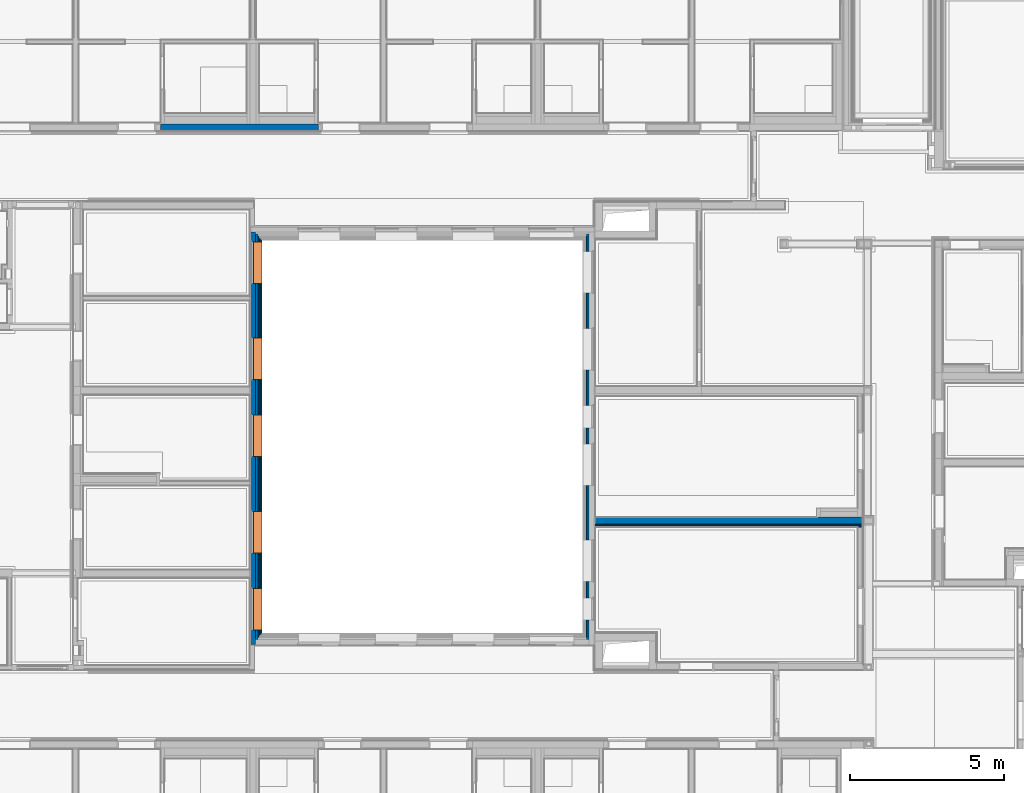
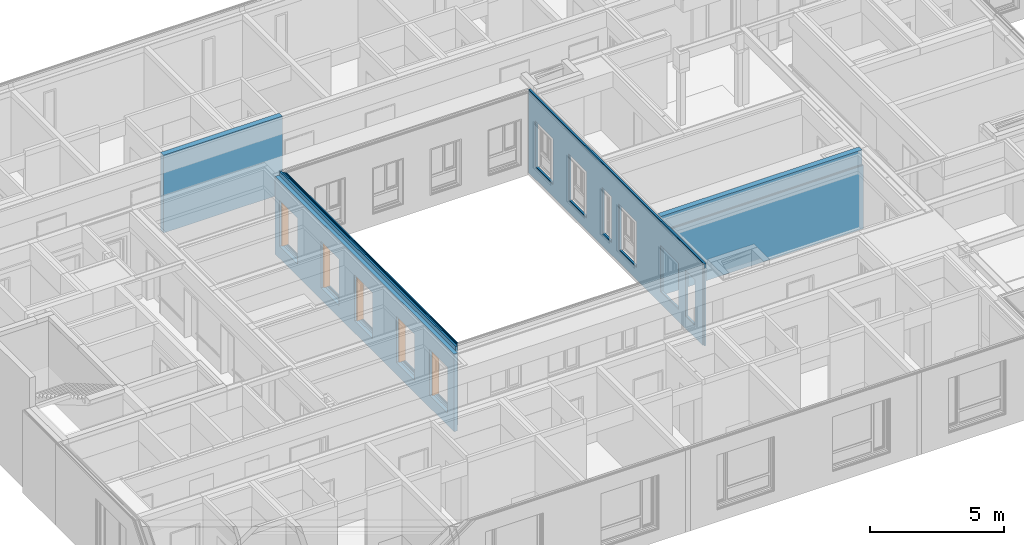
# One storey, part 16 of 222: 12 walls, 5 proxies, 42 openings.
"""IFC4 building model written with IfcOpenShell, lengths in metres."""

from ifc_helpers import new_model, entity, si_unit, converted_unit, derived_unit, frame, frame_2d, origin, origin_with_axes, place, context, subcontext, project, spatial, polyline, rectangle, outline, extrude, faceted_brep, material, element, fill, save


model = new_model("IFC4")

# Units and contexts
model_context = context("Model", 3, precision=1e-05, world=origin())
body_context = subcontext(model_context, "Body", "Model", "MODEL_VIEW")
ifc_project = project(units=[si_unit("LENGTHUNIT", "METRE"), si_unit("AREAUNIT", "SQUARE_METRE"), si_unit("VOLUMEUNIT", "CUBIC_METRE"), si_unit("MASSUNIT", "GRAM", prefix="KILO"), converted_unit("PLANEANGLEUNIT", "DEGREE", entity("IfcPlaneAngleMeasure", 0.0174532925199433), si_unit("PLANEANGLEUNIT", "RADIAN"), dimensions=[0, 0, 0, 0, 0, 0, 0]), derived_unit("THERMALTRANSMITTANCEUNIT", [(si_unit("POWERUNIT", "WATT"), 1), (si_unit("THERMODYNAMICTEMPERATUREUNIT", "KELVIN"), -1), (si_unit("LENGTHUNIT", "METRE"), -2)]), derived_unit("VOLUMETRICFLOWRATEUNIT", [(si_unit("LENGTHUNIT", "METRE"), 3), (converted_unit("TIMEUNIT", "hour", entity("IfcTimeMeasure", 3600.0), si_unit("TIMEUNIT", "SECOND"), dimensions=[0, 0, 1, 0, 0, 0, 0]), -1), (si_unit("LENGTHUNIT", "METRE"), -1)])], contexts=[model_context])

# Site, building, storey
site_placement = place(None, origin())
site = spatial("IfcSite", under=ifc_project, at=site_placement, Name="Psychiatrie Neubau Wunstorf", CompositionType="ELEMENT")
building_placement = place(site_placement, origin())
building = spatial("IfcBuilding", under=site, at=building_placement, Name="Neubau H2 Stationsgebäude", CompositionType="ELEMENT")
storey_placement = place(building_placement, frame((0.0, 0.0, 3.6)))
storey = spatial("IfcBuildingStorey", under=building, at=storey_placement, Name="H2 Ebene +1", CompositionType="ELEMENT", Elevation=3.6)

# Wall, openings
ifc_material_1 = material(Name="WA-DL")
wall_1_placement = place(storey_placement, frame((26.665, 7.61, 0.0), z_axis=(0.0, 0.0, 1.0), x_axis=(5.52395186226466e-16, 1.0, 0.0)))
wall_1 = element("IfcWall", 1, at=wall_1_placement, inside=storey, material=ifc_material_1, context=body_context, shape_type="SweptSolid", body=[
    extrude(rectangle(XDim=13.1716528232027, YDim=0.08, at=frame_2d((6.58582641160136, 0.04), x_axis=(1.0, 0.0))), origin_with_axes(), (0.0, 0.0, 1.0), 3.75),
])
opening_1_placement = place(wall_1_placement, frame((12.605, 0.0799999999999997, 0.55), z_axis=(0.0, -1.0, 0.0), x_axis=(0.0, 0.0, 1.0)))
element("IfcOpeningElement", 2, at=opening_1_placement, cuts=wall_1, Name="Fensteröffnung", ObjectType="Opening", context=body_context, shape_type="SweptSolid", body=[
    extrude(outline(polyline([(2.115, 1.35), (2.115, 0.0), (0.0, 0.0), (0.0, 1.35), (2.115, 1.35)])), origin_with_axes(), (0.0, 0.0, 1.0), 0.08),
])
opening_2_placement = place(wall_1_placement, frame((10.1054401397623, 0.0799999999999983, 0.55), z_axis=(0.0, -1.0, 0.0), x_axis=(0.0, 0.0, 1.0)))
element("IfcOpeningElement", 3, at=opening_2_placement, cuts=wall_1, Name="Fensteröffnung", ObjectType="Opening", context=body_context, shape_type="SweptSolid", body=[
    extrude(outline(polyline([(2.115, 1.35), (2.115, 0.0), (0.0, 0.0), (0.0, 1.35), (2.115, 1.35)])), origin_with_axes(), (0.0, 0.0, 1.0), 0.08),
])
opening_3_placement = place(wall_1_placement, frame((7.60505754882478, 0.0800000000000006, 0.55), z_axis=(0.0, -1.0, 0.0), x_axis=(0.0, 0.0, 1.0)))
element("IfcOpeningElement", 4, at=opening_3_placement, cuts=wall_1, Name="Fensteröffnung", ObjectType="Opening", context=body_context, shape_type="SweptSolid", body=[
    extrude(outline(polyline([(2.115, 0.725), (2.115, 0.0), (0.0, 0.0), (0.0, 0.725), (2.115, 0.725)])), origin_with_axes(), (0.0, 0.0, 1.0), 0.08),
])
opening_4_placement = place(wall_1_placement, frame((3.23244477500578, 0.0800000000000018, 0.55), z_axis=(0.0, -1.0, 0.0), x_axis=(0.0, 0.0, 1.0)))
element("IfcOpeningElement", 5, at=opening_4_placement, cuts=wall_1, Name="Fensteröffnung", ObjectType="Opening", context=body_context, shape_type="SweptSolid", body=[
    extrude(outline(polyline([(2.115, 1.35), (2.115, 0.0), (0.0, 0.0), (0.0, 1.35), (2.115, 1.35)])), origin_with_axes(), (0.0, 0.0, 1.0), 0.08),
])
opening_5_placement = place(wall_1_placement, frame((1.35744478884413, 0.0799999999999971, 0.55), z_axis=(0.0, -1.0, 0.0), x_axis=(0.0, 0.0, 1.0)))
element("IfcOpeningElement", 6, at=opening_5_placement, cuts=wall_1, Name="Fensteröffnung", ObjectType="Opening", context=body_context, shape_type="SweptSolid", body=[
    extrude(outline(polyline([(2.115, 0.725), (2.115, 0.0), (0.0, 0.0), (0.0, 0.725), (2.115, 0.725)])), origin_with_axes(), (0.0, 0.0, 1.0), 0.08),
])
opening_6_placement = place(wall_1_placement, frame((6.35580066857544, 0.0800000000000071, 0.55), z_axis=(0.0, -1.0, 0.0), x_axis=(0.0, 0.0, 1.0)))
element("IfcOpeningElement", 7, at=opening_6_placement, cuts=wall_1, Name="Fensteröffnung", ObjectType="Opening", context=body_context, shape_type="SweptSolid", body=[
    extrude(outline(polyline([(2.115, 1.35), (2.115, 0.0), (0.0, 0.0), (0.0, 1.35), (2.115, 1.35)])), origin_with_axes(), (0.0, 0.0, 1.0), 0.08),
])

ifc_material_2 = material(Name="WA-LB")
wall_2_placement = place(storey_placement, frame((26.585, 7.69, 0.0), z_axis=(0.0, 0.0, 1.0), x_axis=(5.59187807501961e-16, 1.0, 0.0)))
wall_2 = element("IfcWall", 8, at=wall_2_placement, inside=storey, material=ifc_material_2, context=body_context, shape_type="SweptSolid", body=[
    extrude(rectangle(XDim=13.0116528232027, YDim=0.036, at=frame_2d((6.50582641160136, 0.018), x_axis=(1.0, 0.0))), origin_with_axes(), (0.0, 0.0, 1.0), 3.75),
])
opening_7_placement = place(wall_2_placement, frame((12.525, 0.0359999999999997, 0.55), z_axis=(0.0, -1.0, 0.0), x_axis=(0.0, 0.0, 1.0)))
element("IfcOpeningElement", 9, at=opening_7_placement, cuts=wall_2, Name="Fensteröffnung", ObjectType="Opening", context=body_context, shape_type="SweptSolid", body=[
    extrude(outline(polyline([(2.115, 1.35), (2.115, 0.0), (0.0, 0.0), (0.0, 1.35), (2.115, 1.35)])), origin_with_axes(), (0.0, 0.0, 1.0), 0.036),
])
opening_8_placement = place(wall_2_placement, frame((10.0254401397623, 0.0359999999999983, 0.55), z_axis=(0.0, -1.0, 0.0), x_axis=(0.0, 0.0, 1.0)))
element("IfcOpeningElement", 10, at=opening_8_placement, cuts=wall_2, Name="Fensteröffnung", ObjectType="Opening", context=body_context, shape_type="SweptSolid", body=[
    extrude(outline(polyline([(2.115, 1.35), (2.115, 0.0), (0.0, 0.0), (0.0, 1.35), (2.115, 1.35)])), origin_with_axes(), (0.0, 0.0, 1.0), 0.036),
])
opening_9_placement = place(wall_2_placement, frame((7.52505754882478, 0.0360000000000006, 0.55), z_axis=(0.0, -1.0, 0.0), x_axis=(0.0, 0.0, 1.0)))
element("IfcOpeningElement", 11, at=opening_9_placement, cuts=wall_2, Name="Fensteröffnung", ObjectType="Opening", context=body_context, shape_type="SweptSolid", body=[
    extrude(outline(polyline([(2.115, 0.725), (2.115, 0.0), (0.0, 0.0), (0.0, 0.725), (2.115, 0.725)])), origin_with_axes(), (0.0, 0.0, 1.0), 0.036),
])
opening_10_placement = place(wall_2_placement, frame((3.15244477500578, 0.0360000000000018, 0.55), z_axis=(0.0, -1.0, 0.0), x_axis=(0.0, 0.0, 1.0)))
element("IfcOpeningElement", 12, at=opening_10_placement, cuts=wall_2, Name="Fensteröffnung", ObjectType="Opening", context=body_context, shape_type="SweptSolid", body=[
    extrude(outline(polyline([(2.115, 1.35), (2.115, 0.0), (0.0, 0.0), (0.0, 1.35), (2.115, 1.35)])), origin_with_axes(), (0.0, 0.0, 1.0), 0.036),
])
opening_11_placement = place(wall_2_placement, frame((1.27744478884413, 0.0359999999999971, 0.55), z_axis=(0.0, -1.0, 0.0), x_axis=(0.0, 0.0, 1.0)))
element("IfcOpeningElement", 13, at=opening_11_placement, cuts=wall_2, Name="Fensteröffnung", ObjectType="Opening", context=body_context, shape_type="SweptSolid", body=[
    extrude(outline(polyline([(2.115, 0.725), (2.115, 0.0), (0.0, 0.0), (0.0, 0.725), (2.115, 0.725)])), origin_with_axes(), (0.0, 0.0, 1.0), 0.036),
])
opening_12_placement = place(wall_2_placement, frame((6.27580066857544, 0.0360000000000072, 0.55), z_axis=(0.0, -1.0, 0.0), x_axis=(0.0, 0.0, 1.0)))
element("IfcOpeningElement", 14, at=opening_12_placement, cuts=wall_2, Name="Fensteröffnung", ObjectType="Opening", context=body_context, shape_type="SweptSolid", body=[
    extrude(outline(polyline([(2.115, 1.35), (2.115, 0.0), (0.0, 0.0), (0.0, 1.35), (2.115, 1.35)])), origin_with_axes(), (0.0, 0.0, 1.0), 0.036),
])

ifc_material_3 = material(Name="WA-DL")
wall_3_placement = place(storey_placement, frame((15.675, 20.8416528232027, 0.0), z_axis=(0.0, 0.0, 1.0), x_axis=(-2.71660179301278e-16, -1.0, 0.0)))
wall_3 = element("IfcWall", 15, at=wall_3_placement, inside=storey, material=ifc_material_3, context=body_context, shape_type="SweptSolid", body=[
    extrude(rectangle(XDim=13.3916528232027, YDim=0.16, at=frame_2d((6.69582641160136, 0.08), x_axis=(1.0, 0.0))), origin_with_axes(), (0.0, 0.0, 1.0), 3.55),
])
opening_13_placement = place(wall_3_placement, frame((4.79165282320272, 0.159999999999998, 0.55), z_axis=(0.0, -1.0, 0.0), x_axis=(0.0, 0.0, 1.0)))
element("IfcOpeningElement", 16, at=opening_13_placement, cuts=wall_3, Name="Fensteröffnung", ObjectType="Opening", context=body_context, shape_type="SweptSolid", body=[
    extrude(outline(polyline([(2.115, 1.35), (2.115, 0.0), (0.0, 0.0), (0.0, 1.35), (2.115, 1.35)])), origin_with_axes(), (0.0, 0.0, 1.0), 0.16),
])
opening_14_placement = place(wall_3_placement, frame((7.29165282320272, 0.16, 0.55), z_axis=(0.0, -1.0, 0.0), x_axis=(0.0, 0.0, 1.0)))
element("IfcOpeningElement", 17, at=opening_14_placement, cuts=wall_3, Name="Fensteröffnung", ObjectType="Opening", context=body_context, shape_type="SweptSolid", body=[
    extrude(outline(polyline([(2.115, 1.35), (2.115, 0.0), (0.0, 0.0), (0.0, 1.35), (2.115, 1.35)])), origin_with_axes(), (0.0, 0.0, 1.0), 0.16),
])
opening_15_placement = place(wall_3_placement, frame((1.66665282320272, 0.159999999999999, 0.55), z_axis=(0.0, -1.0, 0.0), x_axis=(0.0, 0.0, 1.0)))
element("IfcOpeningElement", 18, at=opening_15_placement, cuts=wall_3, Name="Fensteröffnung", ObjectType="Opening", context=body_context, shape_type="SweptSolid", body=[
    extrude(outline(polyline([(2.115, 1.35), (2.115, 0.0), (0.0, 0.0), (0.0, 1.35), (2.115, 1.35)])), origin_with_axes(), (0.0, 0.0, 1.0), 0.16),
])
opening_16_placement = place(wall_3_placement, frame((12.9166528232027, 0.16, 0.55), z_axis=(0.0, -1.0, 0.0), x_axis=(0.0, 0.0, 1.0)))
element("IfcOpeningElement", 19, at=opening_16_placement, cuts=wall_3, Name="Fensteröffnung", ObjectType="Opening", context=body_context, shape_type="SweptSolid", body=[
    extrude(outline(polyline([(2.115, 1.35), (2.115, 0.0), (0.0, 0.0), (0.0, 1.35), (2.115, 1.35)])), origin_with_axes(), (0.0, 0.0, 1.0), 0.16),
])
opening_17_placement = place(wall_3_placement, frame((10.4166528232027, 0.160000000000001, 0.55), z_axis=(0.0, -1.0, 0.0), x_axis=(0.0, 0.0, 1.0)))
element("IfcOpeningElement", 20, at=opening_17_placement, cuts=wall_3, Name="Fensteröffnung", ObjectType="Opening", context=body_context, shape_type="SweptSolid", body=[
    extrude(outline(polyline([(2.115, 1.35), (2.115, 0.0), (0.0, 0.0), (0.0, 1.35), (2.115, 1.35)])), origin_with_axes(), (0.0, 0.0, 1.0), 0.16),
])

ifc_material_4 = material(Name="WA-DL")
wall_4_placement = place(storey_placement, frame((15.835, 20.7816528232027, 0.0), z_axis=(0.0, 0.0, 1.0), x_axis=(-2.76197593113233e-16, -1.0, 0.0)))
wall_4 = element("IfcWall", 21, at=wall_4_placement, inside=storey, material=ifc_material_4, context=body_context, shape_type="SweptSolid", body=[
    extrude(rectangle(XDim=13.1716528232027, YDim=0.08, at=frame_2d((6.58582641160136, 0.04), x_axis=(1.0, 0.0))), origin_with_axes(), (0.0, 0.0, 1.0), 3.75),
])
opening_18_placement = place(wall_4_placement, frame((4.73165282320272, 0.0799999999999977, 0.55), z_axis=(0.0, -1.0, 0.0), x_axis=(0.0, 0.0, 1.0)))
element("IfcOpeningElement", 22, at=opening_18_placement, cuts=wall_4, Name="Fensteröffnung", ObjectType="Opening", context=body_context, shape_type="SweptSolid", body=[
    extrude(outline(polyline([(2.115, 1.35), (2.115, 0.0), (0.0, 0.0), (0.0, 1.35), (2.115, 1.35)])), origin_with_axes(), (0.0, 0.0, 1.0), 0.08),
])
opening_19_placement = place(wall_4_placement, frame((7.23165282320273, 0.0800000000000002, 0.55), z_axis=(0.0, -1.0, 0.0), x_axis=(0.0, 0.0, 1.0)))
element("IfcOpeningElement", 23, at=opening_19_placement, cuts=wall_4, Name="Fensteröffnung", ObjectType="Opening", context=body_context, shape_type="SweptSolid", body=[
    extrude(outline(polyline([(2.115, 1.35), (2.115, 0.0), (0.0, 0.0), (0.0, 1.35), (2.115, 1.35)])), origin_with_axes(), (0.0, 0.0, 1.0), 0.08),
])
opening_20_placement = place(wall_4_placement, frame((1.60665282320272, 0.0799999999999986, 0.55), z_axis=(0.0, -1.0, 0.0), x_axis=(0.0, 0.0, 1.0)))
element("IfcOpeningElement", 24, at=opening_20_placement, cuts=wall_4, Name="Fensteröffnung", ObjectType="Opening", context=body_context, shape_type="SweptSolid", body=[
    extrude(outline(polyline([(2.115, 1.35), (2.115, 0.0), (0.0, 0.0), (0.0, 1.35), (2.115, 1.35)])), origin_with_axes(), (0.0, 0.0, 1.0), 0.08),
])
opening_21_placement = place(wall_4_placement, frame((12.8566528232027, 0.0799999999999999, 0.55), z_axis=(0.0, -1.0, 0.0), x_axis=(0.0, 0.0, 1.0)))
element("IfcOpeningElement", 25, at=opening_21_placement, cuts=wall_4, Name="Fensteröffnung", ObjectType="Opening", context=body_context, shape_type="SweptSolid", body=[
    extrude(outline(polyline([(2.115, 1.35), (2.115, 0.0), (0.0, 0.0), (0.0, 1.35), (2.115, 1.35)])), origin_with_axes(), (0.0, 0.0, 1.0), 0.08),
])
opening_22_placement = place(wall_4_placement, frame((10.3566528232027, 0.080000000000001, 0.55), z_axis=(0.0, -1.0, 0.0), x_axis=(0.0, 0.0, 1.0)))
element("IfcOpeningElement", 26, at=opening_22_placement, cuts=wall_4, Name="Fensteröffnung", ObjectType="Opening", context=body_context, shape_type="SweptSolid", body=[
    extrude(outline(polyline([(2.115, 1.35), (2.115, 0.0), (0.0, 0.0), (0.0, 1.35), (2.115, 1.35)])), origin_with_axes(), (0.0, 0.0, 1.0), 0.08),
])

ifc_material_5 = material(Name="WA-LB")
wall_5_placement = place(storey_placement, frame((15.915, 20.7016528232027, 0.0), z_axis=(0.0, 0.0, 1.0), x_axis=(-2.7959390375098e-16, -1.0, 0.0)))
wall_5 = element("IfcWall", 27, at=wall_5_placement, inside=storey, material=ifc_material_5, context=body_context, shape_type="SweptSolid", body=[
    extrude(rectangle(XDim=13.0116528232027, YDim=0.036, at=frame_2d((6.50582641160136, 0.018), x_axis=(1.0, 0.0))), origin_with_axes(), (0.0, 0.0, 1.0), 3.75),
])
opening_23_placement = place(wall_5_placement, frame((4.65165282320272, 0.0359999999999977, 0.55), z_axis=(0.0, -1.0, 0.0), x_axis=(0.0, 0.0, 1.0)))
element("IfcOpeningElement", 28, at=opening_23_placement, cuts=wall_5, Name="Fensteröffnung", ObjectType="Opening", context=body_context, shape_type="SweptSolid", body=[
    extrude(outline(polyline([(2.115, 1.35), (2.115, 0.0), (0.0, 0.0), (0.0, 1.35), (2.115, 1.35)])), origin_with_axes(), (0.0, 0.0, 1.0), 0.036),
])
opening_24_placement = place(wall_5_placement, frame((7.15165282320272, 0.0360000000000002, 0.55), z_axis=(0.0, -1.0, 0.0), x_axis=(0.0, 0.0, 1.0)))
element("IfcOpeningElement", 29, at=opening_24_placement, cuts=wall_5, Name="Fensteröffnung", ObjectType="Opening", context=body_context, shape_type="SweptSolid", body=[
    extrude(outline(polyline([(2.115, 1.35), (2.115, 0.0), (0.0, 0.0), (0.0, 1.35), (2.115, 1.35)])), origin_with_axes(), (0.0, 0.0, 1.0), 0.036),
])
opening_25_placement = place(wall_5_placement, frame((1.52665282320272, 0.0359999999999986, 0.55), z_axis=(0.0, -1.0, 0.0), x_axis=(0.0, 0.0, 1.0)))
element("IfcOpeningElement", 30, at=opening_25_placement, cuts=wall_5, Name="Fensteröffnung", ObjectType="Opening", context=body_context, shape_type="SweptSolid", body=[
    extrude(outline(polyline([(2.115, 1.35), (2.115, 0.0), (0.0, 0.0), (0.0, 1.35), (2.115, 1.35)])), origin_with_axes(), (0.0, 0.0, 1.0), 0.036),
])
opening_26_placement = place(wall_5_placement, frame((12.7766528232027, 0.0359999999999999, 0.55), z_axis=(0.0, -1.0, 0.0), x_axis=(0.0, 0.0, 1.0)))
element("IfcOpeningElement", 31, at=opening_26_placement, cuts=wall_5, Name="Fensteröffnung", ObjectType="Opening", context=body_context, shape_type="SweptSolid", body=[
    extrude(outline(polyline([(2.115, 1.35), (2.115, 0.0), (0.0, 0.0), (0.0, 1.35), (2.115, 1.35)])), origin_with_axes(), (0.0, 0.0, 1.0), 0.036),
])
opening_27_placement = place(wall_5_placement, frame((10.2766528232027, 0.0360000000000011, 0.55), z_axis=(0.0, -1.0, 0.0), x_axis=(0.0, 0.0, 1.0)))
element("IfcOpeningElement", 32, at=opening_27_placement, cuts=wall_5, Name="Fensteröffnung", ObjectType="Opening", context=body_context, shape_type="SweptSolid", body=[
    extrude(outline(polyline([(2.115, 1.35), (2.115, 0.0), (0.0, 0.0), (0.0, 1.35), (2.115, 1.35)])), origin_with_axes(), (0.0, 0.0, 1.0), 0.036),
])

ifc_material_6 = material(Name="WA-KL")
wall_6_placement = place(storey_placement, frame((15.951, 20.6656528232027, 0.0), z_axis=(0.0, 0.0, 1.0), x_axis=(-2.81149645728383e-16, -1.0, 0.0)))
wall_6 = element("IfcWall", 33, at=wall_6_placement, inside=storey, material=ifc_material_6, context=body_context, shape_type="SweptSolid", body=[
    extrude(rectangle(XDim=12.9396528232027, YDim=0.024, at=frame_2d((6.46982641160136, 0.012), x_axis=(1.0, 0.0))), origin_with_axes(), (0.0, 0.0, 1.0), 3.75),
])
opening_28_placement = place(wall_6_placement, frame((4.61565282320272, 0.0239999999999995, 0.55), z_axis=(0.0, -1.0, 0.0), x_axis=(0.0, 0.0, 1.0)))
element("IfcOpeningElement", 34, at=opening_28_placement, cuts=wall_6, Name="Fensteröffnung", ObjectType="Opening", context=body_context, shape_type="SweptSolid", body=[
    extrude(outline(polyline([(2.115, 1.35), (2.115, 0.0), (0.0, 0.0), (0.0, 1.35), (2.115, 1.35)])), origin_with_axes(), (0.0, 0.0, 1.0), 0.024),
])
opening_29_placement = place(wall_6_placement, frame((7.11565282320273, 0.0240000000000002, 0.55), z_axis=(0.0, -1.0, 0.0), x_axis=(0.0, 0.0, 1.0)))
element("IfcOpeningElement", 35, at=opening_29_placement, cuts=wall_6, Name="Fensteröffnung", ObjectType="Opening", context=body_context, shape_type="SweptSolid", body=[
    extrude(outline(polyline([(2.115, 1.35), (2.115, 0.0), (0.0, 0.0), (0.0, 1.35), (2.115, 1.35)])), origin_with_axes(), (0.0, 0.0, 1.0), 0.024),
])
opening_30_placement = place(wall_6_placement, frame((1.49065282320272, 0.0240000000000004, 0.55), z_axis=(0.0, -1.0, 0.0), x_axis=(0.0, 0.0, 1.0)))
element("IfcOpeningElement", 36, at=opening_30_placement, cuts=wall_6, Name="Fensteröffnung", ObjectType="Opening", context=body_context, shape_type="SweptSolid", body=[
    extrude(outline(polyline([(2.115, 1.35), (2.115, 0.0), (0.0, 0.0), (0.0, 1.35), (2.115, 1.35)])), origin_with_axes(), (0.0, 0.0, 1.0), 0.024),
])
opening_31_placement = place(wall_6_placement, frame((12.7406528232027, 0.0239999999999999, 0.55), z_axis=(0.0, -1.0, 0.0), x_axis=(0.0, 0.0, 1.0)))
element("IfcOpeningElement", 37, at=opening_31_placement, cuts=wall_6, Name="Fensteröffnung", ObjectType="Opening", context=body_context, shape_type="SweptSolid", body=[
    extrude(outline(polyline([(2.115, 1.35), (2.115, 0.0), (0.0, 0.0), (0.0, 1.35), (2.115, 1.35)])), origin_with_axes(), (0.0, 0.0, 1.0), 0.024),
])
opening_32_placement = place(wall_6_placement, frame((10.2406528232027, 0.0240000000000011, 0.55), z_axis=(0.0, -1.0, 0.0), x_axis=(0.0, 0.0, 1.0)))
element("IfcOpeningElement", 38, at=opening_32_placement, cuts=wall_6, Name="Fensteröffnung", ObjectType="Opening", context=body_context, shape_type="SweptSolid", body=[
    extrude(outline(polyline([(2.115, 1.35), (2.115, 0.0), (0.0, 0.0), (0.0, 1.35), (2.115, 1.35)])), origin_with_axes(), (0.0, 0.0, 1.0), 0.024),
])

ifc_material_7 = material(Name="WA-TL")
wall_7_placement = place(storey_placement, frame((15.975, 20.6416528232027, 0.0), z_axis=(0.0, 0.0, 1.0), x_axis=(-2.82196461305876e-16, -1.0, 0.0)))
wall_7 = element("IfcWall", 39, at=wall_7_placement, inside=storey, material=ifc_material_7, context=body_context, shape_type="SweptSolid", body=[
    extrude(rectangle(XDim=12.8916528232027, YDim=0.024, at=frame_2d((6.44582641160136, 0.012), x_axis=(1.0, 0.0))), origin_with_axes(), (0.0, 0.0, 1.0), 3.75),
])
opening_33_placement = place(wall_7_placement, frame((4.59165282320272, 0.0239999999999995, 0.55), z_axis=(0.0, -1.0, 0.0), x_axis=(0.0, 0.0, 1.0)))
element("IfcOpeningElement", 40, at=opening_33_placement, cuts=wall_7, Name="Fensteröffnung", ObjectType="Opening", context=body_context, shape_type="SweptSolid", body=[
    extrude(outline(polyline([(2.115, 1.35), (2.115, 0.0), (0.0, 0.0), (0.0, 1.35), (2.115, 1.35)])), origin_with_axes(), (0.0, 0.0, 1.0), 0.024),
])
opening_34_placement = place(wall_7_placement, frame((7.09165282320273, 0.0240000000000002, 0.55), z_axis=(0.0, -1.0, 0.0), x_axis=(0.0, 0.0, 1.0)))
element("IfcOpeningElement", 41, at=opening_34_placement, cuts=wall_7, Name="Fensteröffnung", ObjectType="Opening", context=body_context, shape_type="SweptSolid", body=[
    extrude(outline(polyline([(2.115, 1.35), (2.115, 0.0), (0.0, 0.0), (0.0, 1.35), (2.115, 1.35)])), origin_with_axes(), (0.0, 0.0, 1.0), 0.024),
])
opening_35_placement = place(wall_7_placement, frame((1.46665282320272, 0.0240000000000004, 0.55), z_axis=(0.0, -1.0, 0.0), x_axis=(0.0, 0.0, 1.0)))
element("IfcOpeningElement", 42, at=opening_35_placement, cuts=wall_7, Name="Fensteröffnung", ObjectType="Opening", context=body_context, shape_type="SweptSolid", body=[
    extrude(outline(polyline([(2.115, 1.35), (2.115, 0.0), (0.0, 0.0), (0.0, 1.35), (2.115, 1.35)])), origin_with_axes(), (0.0, 0.0, 1.0), 0.024),
])
opening_36_placement = place(wall_7_placement, frame((12.7166528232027, 0.024, 0.55), z_axis=(0.0, -1.0, 0.0), x_axis=(0.0, 0.0, 1.0)))
element("IfcOpeningElement", 43, at=opening_36_placement, cuts=wall_7, Name="Fensteröffnung", ObjectType="Opening", context=body_context, shape_type="SweptSolid", body=[
    extrude(outline(polyline([(2.115, 1.35), (2.115, 0.0), (0.0, 0.0), (0.0, 1.35), (2.115, 1.35)])), origin_with_axes(), (0.0, 0.0, 1.0), 0.024),
])
opening_37_placement = place(wall_7_placement, frame((10.2166528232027, 0.0240000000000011, 0.55), z_axis=(0.0, -1.0, 0.0), x_axis=(0.0, 0.0, 1.0)))
element("IfcOpeningElement", 44, at=opening_37_placement, cuts=wall_7, Name="Fensteröffnung", ObjectType="Opening", context=body_context, shape_type="SweptSolid", body=[
    extrude(outline(polyline([(2.115, 1.35), (2.115, 0.0), (0.0, 0.0), (0.0, 1.35), (2.115, 1.35)])), origin_with_axes(), (0.0, 0.0, 1.0), 0.024),
])

# Wall, openings, proxies
ifc_material_8 = material(Name="WA-HS")
wall_8_placement = place(storey_placement, frame((15.999, 20.6176528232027, 0.0), z_axis=(0.0, 0.0, 1.0), x_axis=(-2.83251101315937e-16, -1.0, 0.0)))
wall_8 = element("IfcWall", 45, at=wall_8_placement, inside=storey, material=ifc_material_8, context=body_context, shape_type="SweptSolid", body=[
    extrude(rectangle(XDim=12.8436528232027, YDim=0.042, at=frame_2d((6.42182641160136, 0.021), x_axis=(1.0, 0.0))), origin_with_axes(), (0.0, 0.0, 1.0), 3.75),
])
opening_38_placement = place(wall_8_placement, frame((4.56765282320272, 0.0419999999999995, 0.55), z_axis=(0.0, -1.0, 0.0), x_axis=(0.0, 0.0, 1.0)))
opening_38 = element("IfcOpeningElement", 46, at=opening_38_placement, cuts=wall_8, Name="Fensteröffnung", ObjectType="Opening", context=body_context, shape_type="SweptSolid", body=[
    extrude(outline(polyline([(2.115, 1.35), (2.115, 0.0), (0.0, 0.0), (0.0, 1.35), (2.115, 1.35)])), origin_with_axes(), (0.0, 0.0, 1.0), 0.042),
])
opening_39_placement = place(wall_8_placement, frame((7.06765282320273, 0.0420000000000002, 0.55), z_axis=(0.0, -1.0, 0.0), x_axis=(0.0, 0.0, 1.0)))
opening_39 = element("IfcOpeningElement", 47, at=opening_39_placement, cuts=wall_8, Name="Fensteröffnung", ObjectType="Opening", context=body_context, shape_type="SweptSolid", body=[
    extrude(outline(polyline([(2.115, 1.35), (2.115, 0.0), (0.0, 0.0), (0.0, 1.35), (2.115, 1.35)])), origin_with_axes(), (0.0, 0.0, 1.0), 0.042),
])
opening_40_placement = place(wall_8_placement, frame((1.44265282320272, 0.0420000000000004, 0.55), z_axis=(0.0, -1.0, 0.0), x_axis=(0.0, 0.0, 1.0)))
opening_40 = element("IfcOpeningElement", 48, at=opening_40_placement, cuts=wall_8, Name="Fensteröffnung", ObjectType="Opening", context=body_context, shape_type="SweptSolid", body=[
    extrude(outline(polyline([(2.115, 1.35), (2.115, 0.0), (0.0, 0.0), (0.0, 1.35), (2.115, 1.35)])), origin_with_axes(), (0.0, 0.0, 1.0), 0.042),
])
opening_41_placement = place(wall_8_placement, frame((12.6926528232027, 0.042, 0.55), z_axis=(0.0, -1.0, 0.0), x_axis=(0.0, 0.0, 1.0)))
opening_41 = element("IfcOpeningElement", 49, at=opening_41_placement, cuts=wall_8, Name="Fensteröffnung", ObjectType="Opening", context=body_context, shape_type="SweptSolid", body=[
    extrude(outline(polyline([(2.115, 1.35), (2.115, 0.0), (0.0, 0.0), (0.0, 1.35), (2.115, 1.35)])), origin_with_axes(), (0.0, 0.0, 1.0), 0.042),
])
opening_42_placement = place(wall_8_placement, frame((10.1926528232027, 0.0420000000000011, 0.55), z_axis=(0.0, -1.0, 0.0), x_axis=(0.0, 0.0, 1.0)))
opening_42 = element("IfcOpeningElement", 50, at=opening_42_placement, cuts=wall_8, Name="Fensteröffnung", ObjectType="Opening", context=body_context, shape_type="SweptSolid", body=[
    extrude(outline(polyline([(2.115, 1.35), (2.115, 0.0), (0.0, 0.0), (0.0, 1.35), (2.115, 1.35)])), origin_with_axes(), (0.0, 0.0, 1.0), 0.042),
])
ifc_material_9 = material(Name="WA-HS")
proxy_1_placement = place(opening_38_placement, frame((0.0, 0.0, 0.275)))
proxy_1 = element("IfcBuildingElementProxy", 51, at=proxy_1_placement, inside=storey, material=ifc_material_9, context=body_context, shape_type="Brep", body=[
    faceted_brep([(0.0, 1.35, 0.0), (0.0, 1.35, -0.275), (2.115, 1.35, -0.275), (2.115, 1.35, 0.0), (2.115, 0.0, -0.275), (2.115, 0.0, 0.0), (0.0, 1.3, -0.275), (0.0, 1.3, 0.0), (0.0, 0.0, 0.0), (0.0, 0.0500000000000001, 0.0), (2.065, 0.0500000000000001, 0.0), (2.065, 1.3, 0.0), (2.065, 1.3, -0.275), (2.065, 0.0500000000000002, -0.275), (0.0, 0.0500000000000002, -0.275), (0.0, 0.0, -0.275)], [[[0, 1, 2, 3]], [[2, 4, 5, 3]], [[6, 1, 0, 7]], [[7, 0, 3, 5, 8, 9, 10, 11]], [[1, 6, 12, 13, 14, 15, 4, 2]], [[6, 7, 11, 12]], [[15, 8, 5, 4]], [[15, 14, 9, 8]], [[9, 14, 13, 10]], [[10, 13, 12, 11]]], orient=[[False], [False], [False], [False], [False], [False], [False], [False], [False], [False]]),
])
fill(opening_38, proxy_1)
ifc_material_10 = material(Name="WA-HS")
proxy_2_placement = place(opening_39_placement, frame((0.0, 0.0, 0.275)))
proxy_2 = element("IfcBuildingElementProxy", 52, at=proxy_2_placement, inside=storey, material=ifc_material_10, context=body_context, shape_type="Brep", body=[
    faceted_brep([(0.0, 0.0, -0.275), (0.0, 0.0, 0.0), (2.115, 0.0, 0.0), (2.115, 0.0, -0.275), (0.0, 0.05, 0.0), (0.0, 0.0500000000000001, -0.275), (2.065, 0.0500000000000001, -0.275), (2.065, 0.05, 0.0), (2.115, 1.35, 0.0), (2.115, 1.35, -0.275), (0.0, 1.35, -0.275), (0.0, 1.3, -0.275), (2.065, 1.3, -0.275), (2.065, 1.3, 0.0), (0.0, 1.3, 0.0), (0.0, 1.35, 0.0)], [[[0, 1, 2, 3]], [[4, 5, 6, 7]], [[0, 5, 4, 1]], [[3, 2, 8, 9]], [[6, 5, 0, 3, 9, 10, 11, 12]], [[13, 14, 15, 8, 2, 1, 4, 7]], [[7, 6, 12, 13]], [[11, 14, 13, 12]], [[15, 10, 9, 8]], [[11, 10, 15, 14]]], orient=[[False], [False], [False], [False], [False], [False], [False], [False], [False], [False]]),
])
fill(opening_39, proxy_2)
ifc_material_11 = material(Name="WA-HS")
proxy_3_placement = place(opening_40_placement, frame((0.0, 0.0, 0.275)))
proxy_3 = element("IfcBuildingElementProxy", 53, at=proxy_3_placement, inside=storey, material=ifc_material_11, context=body_context, shape_type="Brep", body=[
    faceted_brep([(0.0, 0.0, -0.275), (0.0, 0.0, 0.0), (2.115, 0.0, 0.0), (2.115, 0.0, -0.275), (0.0, 0.05, 0.0), (0.0, 0.0500000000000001, -0.275), (2.065, 0.0500000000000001, -0.275), (2.065, 0.05, 0.0), (2.115, 1.35, 0.0), (2.115, 1.35, -0.275), (0.0, 1.35, -0.275), (0.0, 1.3, -0.275), (2.065, 1.3, -0.275), (2.065, 1.3, 0.0), (0.0, 1.3, 0.0), (0.0, 1.35, 0.0)], [[[0, 1, 2, 3]], [[4, 5, 6, 7]], [[0, 5, 4, 1]], [[3, 2, 8, 9]], [[6, 5, 0, 3, 9, 10, 11, 12]], [[13, 14, 15, 8, 2, 1, 4, 7]], [[7, 6, 12, 13]], [[11, 14, 13, 12]], [[15, 10, 9, 8]], [[11, 10, 15, 14]]], orient=[[False], [False], [False], [False], [False], [False], [False], [False], [False], [False]]),
])
fill(opening_40, proxy_3)
ifc_material_12 = material(Name="WA-HS")
proxy_4_placement = place(opening_41_placement, frame((0.0, 0.0, 0.275)))
proxy_4 = element("IfcBuildingElementProxy", 54, at=proxy_4_placement, inside=storey, material=ifc_material_12, context=body_context, shape_type="Brep", body=[
    faceted_brep([(0.0, 1.35, 0.0), (0.0, 1.35, -0.275), (2.115, 1.35, -0.275), (2.115, 1.35, 0.0), (2.115, 0.0, -0.275), (2.115, 0.0, 0.0), (0.0, 1.3, -0.275), (0.0, 1.3, 0.0), (0.0, 0.0, 0.0), (0.0, 0.05, 0.0), (2.065, 0.05, 0.0), (2.065, 1.3, 0.0), (2.065, 1.3, -0.275), (2.065, 0.0500000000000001, -0.275), (0.0, 0.0500000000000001, -0.275), (0.0, 0.0, -0.275)], [[[0, 1, 2, 3]], [[2, 4, 5, 3]], [[6, 1, 0, 7]], [[7, 0, 3, 5, 8, 9, 10, 11]], [[1, 6, 12, 13, 14, 15, 4, 2]], [[6, 7, 11, 12]], [[15, 8, 5, 4]], [[15, 14, 9, 8]], [[9, 14, 13, 10]], [[10, 13, 12, 11]]], orient=[[False], [False], [False], [False], [False], [False], [False], [False], [False], [False]]),
])
fill(opening_41, proxy_4)
ifc_material_13 = material(Name="WA-HS")
proxy_5_placement = place(opening_42_placement, frame((0.0, 0.0, 0.275)))
proxy_5 = element("IfcBuildingElementProxy", 55, at=proxy_5_placement, inside=storey, material=ifc_material_13, context=body_context, shape_type="Brep", body=[
    faceted_brep([(0.0, 0.0, -0.275), (0.0, 0.0, 0.0), (2.115, 0.0, 0.0), (2.115, 0.0, -0.275), (0.0, 0.05, 0.0), (0.0, 0.0500000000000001, -0.275), (2.065, 0.0500000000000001, -0.275), (2.065, 0.05, 0.0), (2.115, 1.35, 0.0), (2.115, 1.35, -0.275), (0.0, 1.35, -0.275), (0.0, 1.3, -0.275), (2.065, 1.3, -0.275), (2.065, 1.3, 0.0), (0.0, 1.3, 0.0), (0.0, 1.35, 0.0)], [[[0, 1, 2, 3]], [[4, 5, 6, 7]], [[0, 5, 4, 1]], [[3, 2, 8, 9]], [[6, 5, 0, 3, 9, 10, 11, 12]], [[13, 14, 15, 8, 2, 1, 4, 7]], [[7, 6, 12, 13]], [[11, 14, 13, 12]], [[15, 10, 9, 8]], [[11, 10, 15, 14]]], orient=[[False], [False], [False], [False], [False], [False], [False], [False], [False], [False]]),
])
fill(opening_42, proxy_5)

# Walls
ifc_material_14 = material(Name="WI-LB")
wall_9_placement = place(storey_placement, frame((26.861, 11.267557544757, 0.0)))
element("IfcWall", 56, at=wall_9_placement, inside=storey, material=ifc_material_14, context=body_context, shape_type="SweptSolid", body=[
    extrude(rectangle(XDim=8.70900000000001, YDim=0.04, at=frame_2d((4.35450000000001, 0.02), x_axis=(1.0, 0.0))), origin_with_axes(), (0.0, 0.0, 1.0), 2.9),
])
ifc_material_15 = material(Name="Installationsraum")
wall_10_placement = place(storey_placement, frame((26.861, 11.307557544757, 0.0)))
element("IfcWall", 57, at=wall_10_placement, inside=storey, material=ifc_material_15, context=body_context, shape_type="SweptSolid", body=[
    extrude(rectangle(XDim=8.70900000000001, YDim=0.05, at=frame_2d((4.35450000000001, 0.025), x_axis=(1.0, 0.0))), origin_with_axes(), (0.0, 0.0, 1.0), 2.9),
])
ifc_material_16 = material(Name="WI-HW 60")
wall_11_placement = place(storey_placement, frame((26.861, 11.357557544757, 0.0)))
element("IfcWall", 58, at=wall_11_placement, inside=storey, material=ifc_material_16, context=body_context, shape_type="SweptSolid", body=[
    extrude(rectangle(XDim=8.70900000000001, YDim=0.232, at=frame_2d((4.35450000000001, 0.116), x_axis=(1.0, 0.0))), origin_with_axes(), (0.0, 0.0, 1.0), 3.55),
])
ifc_material_17 = material(Name="WI-HW 60")
wall_12_placement = place(storey_placement, frame((12.75, 24.1175, 0.0), z_axis=(0.0, 0.0, 1.0), x_axis=(1.0, 7.80834475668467e-15, 0.0)))
element("IfcWall", 59, at=wall_12_placement, inside=storey, material=ifc_material_17, context=body_context, shape_type="SweptSolid", body=[
    extrude(rectangle(XDim=5.12499999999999, YDim=0.232, at=frame_2d((2.5625, 0.116), x_axis=(1.0, 0.0))), origin_with_axes(), (0.0, 0.0, 1.0), 3.55),
])

save(model, "model.ifc")
